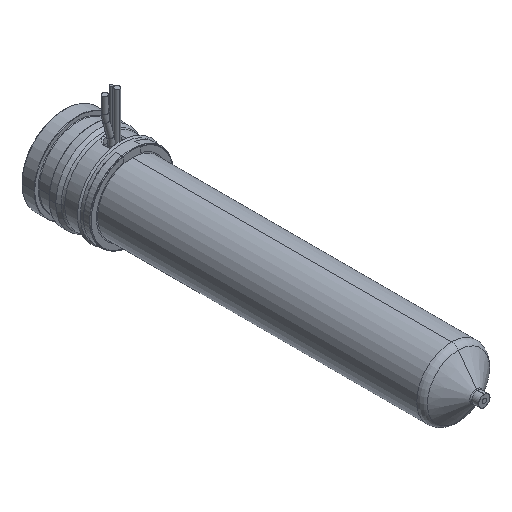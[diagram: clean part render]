
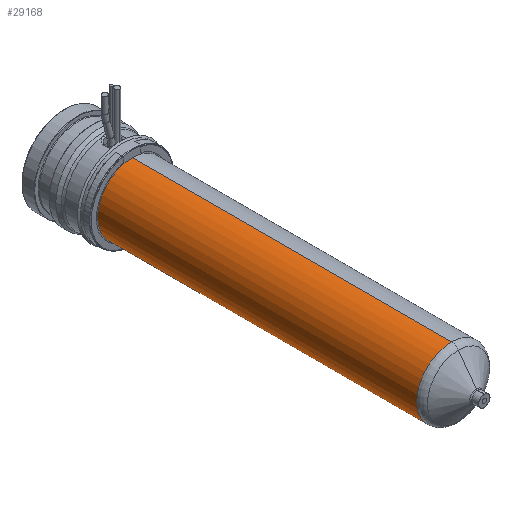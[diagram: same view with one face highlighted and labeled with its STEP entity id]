
A CAD part, isometric view. The second image highlights one B-rep face of the part: STEP entity #29168.
In plain terms, the highlighted cylindrical face has radius 12 mm (diameter 24 mm), a partial arc.
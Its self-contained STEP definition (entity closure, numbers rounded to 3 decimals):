
#28813=CARTESIAN_POINT('',(0.,-24.,0.));
#28814=DIRECTION('',(0.,1.,0.));
#28815=DIRECTION('',(0.,0.,-1.));
#28816=AXIS2_PLACEMENT_3D('',#28813,#28814,#28815);
#28821=DIRECTION('',(0.,1.,0.));
#28822=VECTOR('',#28821,110.671);
#28823=CARTESIAN_POINT('',(0.,-134.671,12.));
#28824=LINE('',#28823,#28822);
#28836=DIRECTION('',(0.,1.,0.));
#28837=VECTOR('',#28836,110.671);
#28838=CARTESIAN_POINT('',(0.,-134.671,-12.));
#28839=LINE('',#28838,#28837);
#28867=CARTESIAN_POINT('',(0.,-134.671,0.));
#28868=DIRECTION('',(0.,-1.,0.));
#28869=DIRECTION('',(0.,0.,1.));
#28870=AXIS2_PLACEMENT_3D('',#28867,#28868,#28869);
#29057=CARTESIAN_POINT('',(0.,-134.671,12.));
#29058=CARTESIAN_POINT('',(0.,-24.,12.));
#29059=VERTEX_POINT('',#29057);
#29060=VERTEX_POINT('',#29058);
#29065=CARTESIAN_POINT('',(0.,-134.671,-12.));
#29066=CARTESIAN_POINT('',(0.,-24.,-12.));
#29067=VERTEX_POINT('',#29065);
#29068=VERTEX_POINT('',#29066);
#29154=CARTESIAN_POINT('',(0.,-13.7,0.));
#29155=DIRECTION('',(0.,-1.,0.));
#29156=DIRECTION('',(0.,0.,1.));
#29157=AXIS2_PLACEMENT_3D('',#29154,#29155,#29156);
#29158=CYLINDRICAL_SURFACE('',#29157,12.);
#29160=ORIENTED_EDGE('',*,*,#29159,.F.);
#29162=ORIENTED_EDGE('',*,*,#29161,.T.);
#29164=ORIENTED_EDGE('',*,*,#29163,.T.);
#29165=ORIENTED_EDGE('',*,*,#29147,.T.);
#29166=EDGE_LOOP('',(#29160,#29162,#29164,#29165));
#29167=FACE_OUTER_BOUND('',#29166,.F.);
#29168=ADVANCED_FACE('',(#29167),#29158,.T.);
#28817=CIRCLE('',#28816,12.);
#28871=CIRCLE('',#28870,12.);
#29147=EDGE_CURVE('',#29068,#29060,#28817,.T.);
#29159=EDGE_CURVE('',#29059,#29060,#28824,.T.);
#29161=EDGE_CURVE('',#29059,#29067,#28871,.T.);
#29163=EDGE_CURVE('',#29067,#29068,#28839,.T.);
